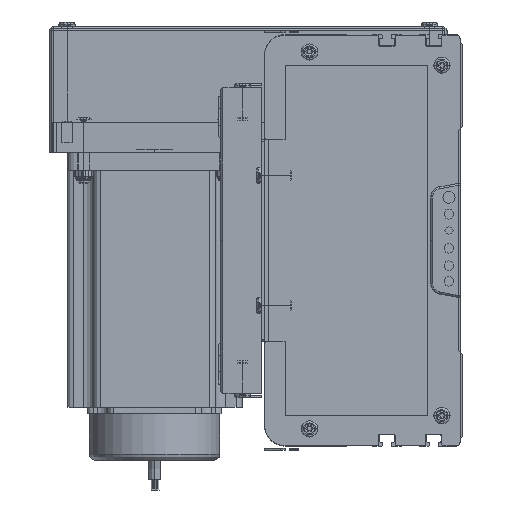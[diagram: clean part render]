
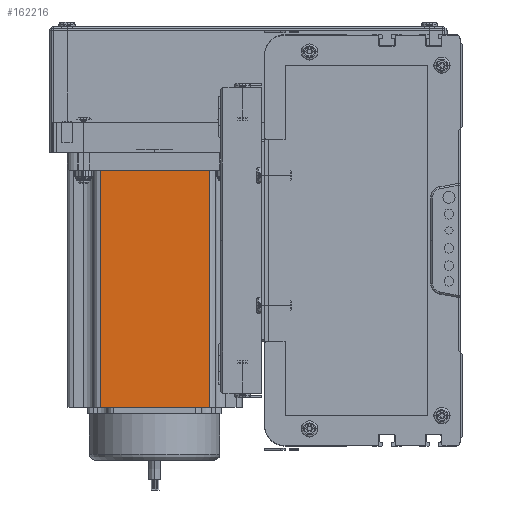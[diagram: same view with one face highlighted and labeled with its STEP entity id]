
A CAD part, left-side view. The second image highlights one B-rep face of the part: STEP entity #162216.
In plain terms, the highlighted planar face has unit normal (-1, 0, 0) as drawn and (0, -1, 0) by its records, which use the part's own axes.
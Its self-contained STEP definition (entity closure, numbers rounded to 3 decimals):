
#135191 = DIRECTION ( 'NONE',  ( 1., 0., 0. ) ) ;
#135202 = VECTOR ( 'NONE', #135191, 1000. ) ;
#135205 = CARTESIAN_POINT ( 'NONE',  ( 0., 0., 116.5 ) ) ;
#135207 = LINE ( 'NONE', #135205, #135202 ) ;
#135484 = CARTESIAN_POINT ( 'NONE',  ( 16.16, 0., 116.5 ) ) ;
#135554 = CARTESIAN_POINT ( 'NONE',  ( 69.74, 0., 116.5 ) ) ;
#135555 = LINE ( 'NONE', #135554, #135689 ) ;
#135686 = DIRECTION ( 'NONE',  ( 0., 0., 1. ) ) ;
#135689 = VECTOR ( 'NONE', #135686, 1000. ) ;
#136061 = DIRECTION ( 'NONE',  ( 0., 0., -1. ) ) ;
#136062 = VECTOR ( 'NONE', #136061, 1000. ) ;
#136094 = LINE ( 'NONE', #135484, #136062 ) ;
#136588 = CARTESIAN_POINT ( 'NONE',  ( 16.16, 0., 116.5 ) ) ;
#136604 = DIRECTION ( 'NONE',  ( 1., 0., 0. ) ) ;
#136605 = VECTOR ( 'NONE', #136604, 1000. ) ;
#136620 = CARTESIAN_POINT ( 'NONE',  ( 0., 0., 0. ) ) ;
#136673 = LINE ( 'NONE', #136620, #136605 ) ;
#136739 = CARTESIAN_POINT ( 'NONE',  ( 16.16, 0., 0. ) ) ;
#136957 = CARTESIAN_POINT ( 'NONE',  ( 69.74, 0., 116.5 ) ) ;
#137544 = CARTESIAN_POINT ( 'NONE',  ( 69.74, 0., 0. ) ) ;
#137781 = DIRECTION ( 'NONE',  ( 0., 0., 1. ) ) ;
#137784 = DIRECTION ( 'NONE',  ( 0., 1., 0. ) ) ;
#137795 = CARTESIAN_POINT ( 'NONE',  ( 0., 0., 116.5 ) ) ;
#137839 = FACE_OUTER_BOUND ( 'NONE', #162171, .T. ) ;
#138059 = PLANE ( 'NONE',  #138065 ) ;
#138065 = AXIS2_PLACEMENT_3D ( 'NONE', #137795, #137784, #137781 ) ;
#162013 = EDGE_CURVE ( 'NONE', #162145, #162158, #135207, .T. ) ;
#162036 = ORIENTED_EDGE ( 'NONE', *, *, #162121, .T. ) ;
#162044 = EDGE_CURVE ( 'NONE', #162156, #162158, #135555, .T. ) ;
#162060 = EDGE_CURVE ( 'NONE', #162145, #162091, #136094, .T. ) ;
#162091 = VERTEX_POINT ( 'NONE', #136739 ) ;
#162121 = EDGE_CURVE ( 'NONE', #162091, #162156, #136673, .T. ) ;
#162124 = ORIENTED_EDGE ( 'NONE', *, *, #162013, .F. ) ;
#162145 = VERTEX_POINT ( 'NONE', #136588 ) ;
#162156 = VERTEX_POINT ( 'NONE', #137544 ) ;
#162158 = VERTEX_POINT ( 'NONE', #136957 ) ;
#162163 = ORIENTED_EDGE ( 'NONE', *, *, #162060, .T. ) ;
#162171 = EDGE_LOOP ( 'NONE', ( #162036, #162217, #162124, #162163 ) ) ;
#162216 = ADVANCED_FACE ( 'NONE', ( #137839 ), #138059, .F. ) ;
#162217 = ORIENTED_EDGE ( 'NONE', *, *, #162044, .T. ) ;
